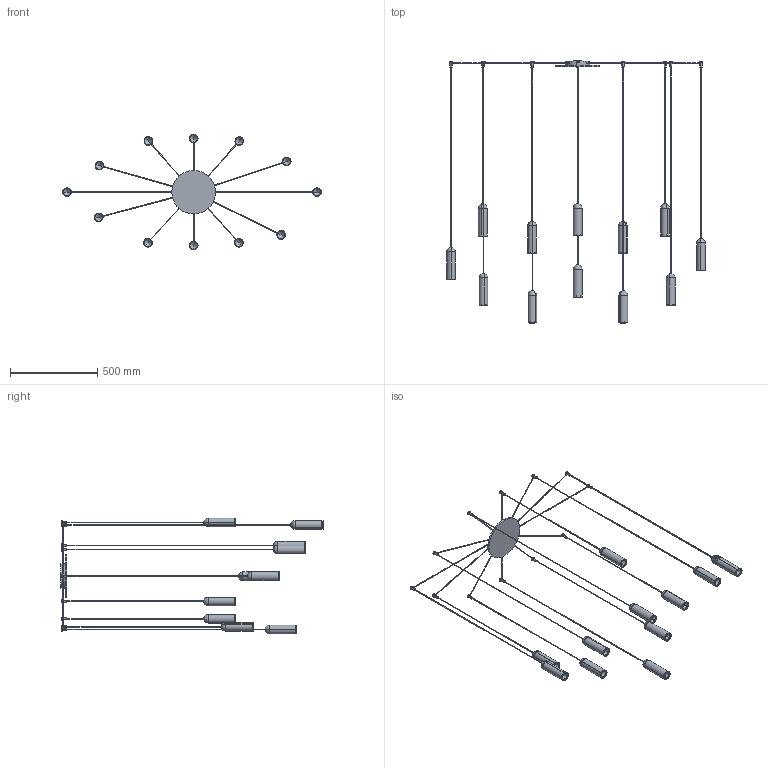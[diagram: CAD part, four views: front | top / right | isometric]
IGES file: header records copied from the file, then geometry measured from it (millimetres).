
Start section: SolidWorks IGES file using analytic representation for surfaces
Global section: file name: Y:\eforma\TECNICO\SOLIDWORKS\E-FORMA\09-LAMPADE\NANUM\02 parts\NANA8-00-NANUM_12_A sospensione.IGS; native system: SolidWorks 2022; preprocessor: SolidWorks 2022; author: eforma.tech; date: 250505.164127; units: millimetre
Bounding box: 1485 x 1504.5 x 664 mm (x, y, z)
Volume: 1961913.2 mm3; surface area: 1082034.1 mm2
Topology: 37 solids, 37 shells, 463 faces, 909 edges, 521 vertices
Faces by surface type: revolution 366, plane 97
